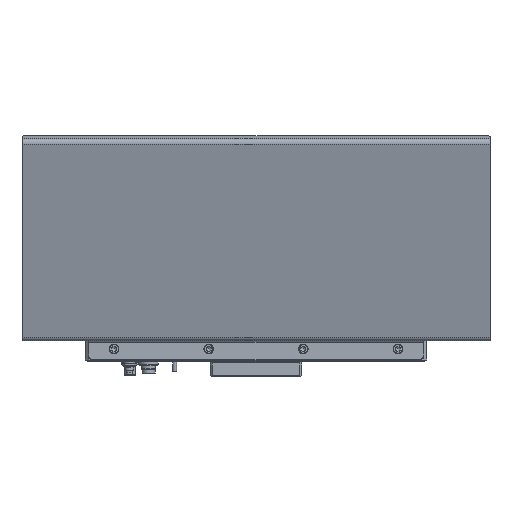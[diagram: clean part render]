
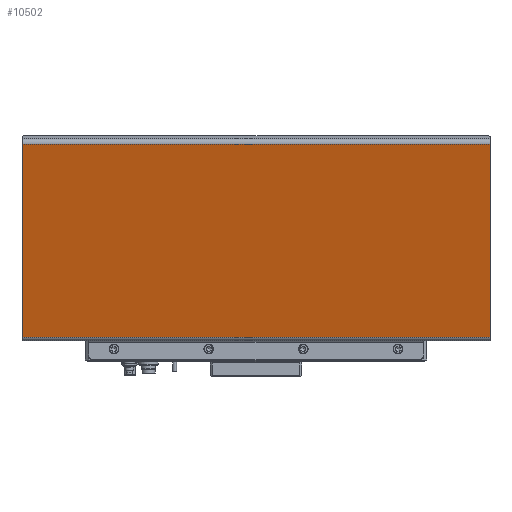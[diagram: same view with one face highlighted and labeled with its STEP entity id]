
A CAD part, front view. The second image highlights one B-rep face of the part: STEP entity #10502.
In plain terms, the highlighted planar face has unit normal (0, -0.966, -0.259).
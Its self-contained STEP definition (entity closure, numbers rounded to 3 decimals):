
#363=LINE('',#15482,#1262);
#386=LINE('',#15559,#1285);
#399=LINE('',#15596,#1298);
#401=LINE('',#15600,#1300);
#1262=VECTOR('',#12418,10.);
#1285=VECTOR('',#12489,10.);
#1298=VECTOR('',#12536,10.);
#1300=VECTOR('',#12542,10.);
#2603=FACE_OUTER_BOUND('',#3313,.T.);
#3313=EDGE_LOOP('',(#7354,#7355,#7356,#7357));
#4569=VERTEX_POINT('',#15479);
#4570=VERTEX_POINT('',#15481);
#4599=VERTEX_POINT('',#15556);
#4600=VERTEX_POINT('',#15558);
#5620=EDGE_CURVE('',#4569,#4570,#363,.T.);
#5660=EDGE_CURVE('',#4599,#4600,#386,.T.);
#5679=EDGE_CURVE('',#4599,#4570,#399,.T.);
#5681=EDGE_CURVE('',#4569,#4600,#401,.T.);
#7354=ORIENTED_EDGE('',*,*,#5679,.T.);
#7355=ORIENTED_EDGE('',*,*,#5620,.F.);
#7356=ORIENTED_EDGE('',*,*,#5681,.T.);
#7357=ORIENTED_EDGE('',*,*,#5660,.F.);
#10099=PLANE('',#11253);
#10502=ADVANCED_FACE('',(#2603),#10099,.T.);
#11253=AXIS2_PLACEMENT_3D('',#15599,#12540,#12541);
#12418=DIRECTION('',(0.,0.259,-0.966));
#12489=DIRECTION('',(0.,-0.259,0.966));
#12536=DIRECTION('',(1.,0.,0.));
#12540=DIRECTION('center_axis',(0.,-0.966,
-0.259));
#12541=DIRECTION('ref_axis',(0.,0.259,-0.966));
#12542=DIRECTION('',(-1.,0.,0.));
#15479=CARTESIAN_POINT('',(389.4,-132.031,225.526));
#15481=CARTESIAN_POINT('',(389.4,-78.41,25.409));
#15482=CARTESIAN_POINT('',(389.4,-132.445,227.071));
#15556=CARTESIAN_POINT('',(-95.6,-78.41,25.409));
#15558=CARTESIAN_POINT('',(-95.6,-132.031,225.526));
#15559=CARTESIAN_POINT('',(-95.6,-78.3,25.));
#15596=CARTESIAN_POINT('',(268.15,-78.41,25.409));
#15599=CARTESIAN_POINT('Origin',(146.9,-105.372,126.035));
#15600=CARTESIAN_POINT('',(25.65,-132.031,225.526));
